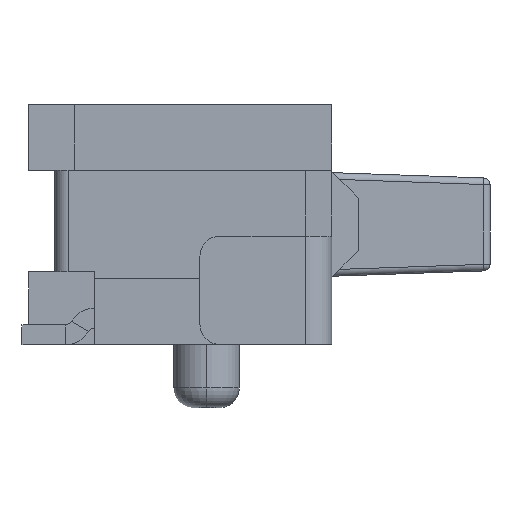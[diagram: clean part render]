
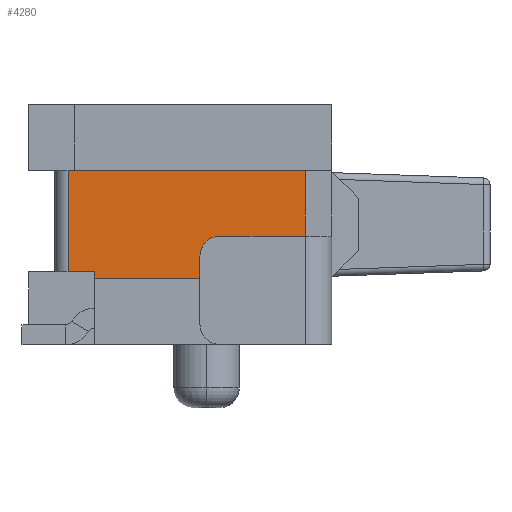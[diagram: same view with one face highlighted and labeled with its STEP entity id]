
A CAD part, left-side view. The second image highlights one B-rep face of the part: STEP entity #4280.
In plain terms, the highlighted planar face has unit normal (-1, 0, 0).
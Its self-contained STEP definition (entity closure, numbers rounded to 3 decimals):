
#470 = DIRECTION ( 'NONE',  ( 0., 0., -1. ) ) ;
#1074 = LINE ( 'NONE', #15466, #8284 ) ;
#1294 = DIRECTION ( 'NONE',  ( 0., -1., 0. ) ) ;
#1389 = ORIENTED_EDGE ( 'NONE', *, *, #18243, .F. ) ;
#1653 = VERTEX_POINT ( 'NONE', #16412 ) ;
#2280 = CARTESIAN_POINT ( 'NONE',  ( -2.05, -0.75, 0.82 ) ) ;
#3498 = CARTESIAN_POINT ( 'NONE',  ( -2.05, 1.25, 0.55 ) ) ;
#3722 = DIRECTION ( 'NONE',  ( 0., 0., -1. ) ) ;
#4280 = ADVANCED_FACE ( 'NONE', ( #19307 ), #19099, .F. ) ;
#4481 = VERTEX_POINT ( 'NONE', #19663 ) ;
#4713 = VECTOR ( 'NONE', #19292, 1000. ) ;
#4744 = LINE ( 'NONE', #10816, #12023 ) ;
#4940 = VERTEX_POINT ( 'NONE', #18870 ) ;
#4960 = LINE ( 'NONE', #12935, #4713 ) ;
#5232 = DIRECTION ( 'NONE',  ( 0., -1., 0. ) ) ;
#5320 = DIRECTION ( 'NONE',  ( 0., -1., 0. ) ) ;
#5327 = EDGE_CURVE ( 'NONE', #19400, #7683, #13026, .T. ) ;
#5504 = EDGE_CURVE ( 'NONE', #4481, #10442, #13078, .T. ) ;
#5920 = EDGE_CURVE ( 'NONE', #1653, #7683, #9710, .T. ) ;
#6091 = CARTESIAN_POINT ( 'NONE',  ( -2.05, 1.05, 0.55 ) ) ;
#6095 = CARTESIAN_POINT ( 'NONE',  ( -2.05, 1.55, 0.5 ) ) ;
#6399 = ORIENTED_EDGE ( 'NONE', *, *, #5504, .T. ) ;
#6670 = CARTESIAN_POINT ( 'NONE',  ( -2.05, -0.537, 0.5 ) ) ;
#7289 = ORIENTED_EDGE ( 'NONE', *, *, #13761, .T. ) ;
#7435 = ORIENTED_EDGE ( 'NONE', *, *, #15165, .F. ) ;
#7683 = VERTEX_POINT ( 'NONE', #15344 ) ;
#8078 = VECTOR ( 'NONE', #15275, 1000. ) ;
#8095 = DIRECTION ( 'NONE',  ( 0., 0., 1. ) ) ;
#8154 = VERTEX_POINT ( 'NONE', #8878 ) ;
#8284 = VECTOR ( 'NONE', #20263, 1000. ) ;
#8844 = VERTEX_POINT ( 'NONE', #11129 ) ;
#8878 = CARTESIAN_POINT ( 'NONE',  ( -2.05, -0.55, 1.32 ) ) ;
#9549 = VECTOR ( 'NONE', #11450, 1000. ) ;
#9710 = LINE ( 'NONE', #3498, #10810 ) ;
#9813 = CARTESIAN_POINT ( 'NONE',  ( -2.05, 1.05, 0.55 ) ) ;
#10124 = ORIENTED_EDGE ( 'NONE', *, *, #5327, .F. ) ;
#10442 = VERTEX_POINT ( 'NONE', #6670 ) ;
#10810 = VECTOR ( 'NONE', #470, 1000. ) ;
#10816 = CARTESIAN_POINT ( 'NONE',  ( -2.05, 1.55, 1.32 ) ) ;
#10974 = CARTESIAN_POINT ( 'NONE',  ( -2.05, 1.05, 0. ) ) ;
#11129 = CARTESIAN_POINT ( 'NONE',  ( -2.05, -0.537, 0.82 ) ) ;
#11450 = DIRECTION ( 'NONE',  ( 0., 1., 0. ) ) ;
#11603 = CARTESIAN_POINT ( 'NONE',  ( -2.05, 1.2, 1.32 ) ) ;
#11692 = ORIENTED_EDGE ( 'NONE', *, *, #14665, .F. ) ;
#12023 = VECTOR ( 'NONE', #5232, 1000. ) ;
#12616 = VECTOR ( 'NONE', #1294, 1000. ) ;
#12935 = CARTESIAN_POINT ( 'NONE',  ( -2.05, -0.55, 0.5 ) ) ;
#13026 = LINE ( 'NONE', #9813, #9549 ) ;
#13078 = LINE ( 'NONE', #13174, #17814 ) ;
#13174 = CARTESIAN_POINT ( 'NONE',  ( -2.05, 1.55, 0.5 ) ) ;
#13522 = VERTEX_POINT ( 'NONE', #11603 ) ;
#13761 = EDGE_CURVE ( 'NONE', #4940, #8154, #4960, .T. ) ;
#14665 = EDGE_CURVE ( 'NONE', #4481, #19400, #19318, .T. ) ;
#15165 = EDGE_CURVE ( 'NONE', #1653, #13522, #4744, .T. ) ;
#15275 = DIRECTION ( 'NONE',  ( 0., -1., 0. ) ) ;
#15344 = CARTESIAN_POINT ( 'NONE',  ( -2.05, 1.25, 0.55 ) ) ;
#15466 = CARTESIAN_POINT ( 'NONE',  ( -2.05, -0.537, 0.15 ) ) ;
#15492 = CARTESIAN_POINT ( 'NONE',  ( -2.05, 1.55, 1.32 ) ) ;
#16412 = CARTESIAN_POINT ( 'NONE',  ( -2.05, 1.25, 1.32 ) ) ;
#16424 = EDGE_LOOP ( 'NONE', ( #16475, #18898, #7289, #1389, #7435, #20303, #10124, #11692, #6399 ) ) ;
#16475 = ORIENTED_EDGE ( 'NONE', *, *, #18385, .T. ) ;
#17075 = LINE ( 'NONE', #15492, #12616 ) ;
#17814 = VECTOR ( 'NONE', #5320, 1000. ) ;
#18243 = EDGE_CURVE ( 'NONE', #13522, #8154, #17075, .T. ) ;
#18339 = VECTOR ( 'NONE', #8095, 1000. ) ;
#18385 = EDGE_CURVE ( 'NONE', #10442, #8844, #1074, .T. ) ;
#18427 = DIRECTION ( 'NONE',  ( 1., 0., 0. ) ) ;
#18428 = LINE ( 'NONE', #2280, #8078 ) ;
#18870 = CARTESIAN_POINT ( 'NONE',  ( -2.05, -0.55, 0.82 ) ) ;
#18876 = AXIS2_PLACEMENT_3D ( 'NONE', #6095, #18427, #3722 ) ;
#18898 = ORIENTED_EDGE ( 'NONE', *, *, #20085, .T. ) ;
#19099 = PLANE ( 'NONE',  #18876 ) ;
#19292 = DIRECTION ( 'NONE',  ( 0., 0., 1. ) ) ;
#19307 = FACE_OUTER_BOUND ( 'NONE', #16424, .T. ) ;
#19318 = LINE ( 'NONE', #10974, #18339 ) ;
#19400 = VERTEX_POINT ( 'NONE', #6091 ) ;
#19663 = CARTESIAN_POINT ( 'NONE',  ( -2.05, 1.05, 0.5 ) ) ;
#20085 = EDGE_CURVE ( 'NONE', #8844, #4940, #18428, .T. ) ;
#20263 = DIRECTION ( 'NONE',  ( 0., 0., 1. ) ) ;
#20303 = ORIENTED_EDGE ( 'NONE', *, *, #5920, .T. ) ;
